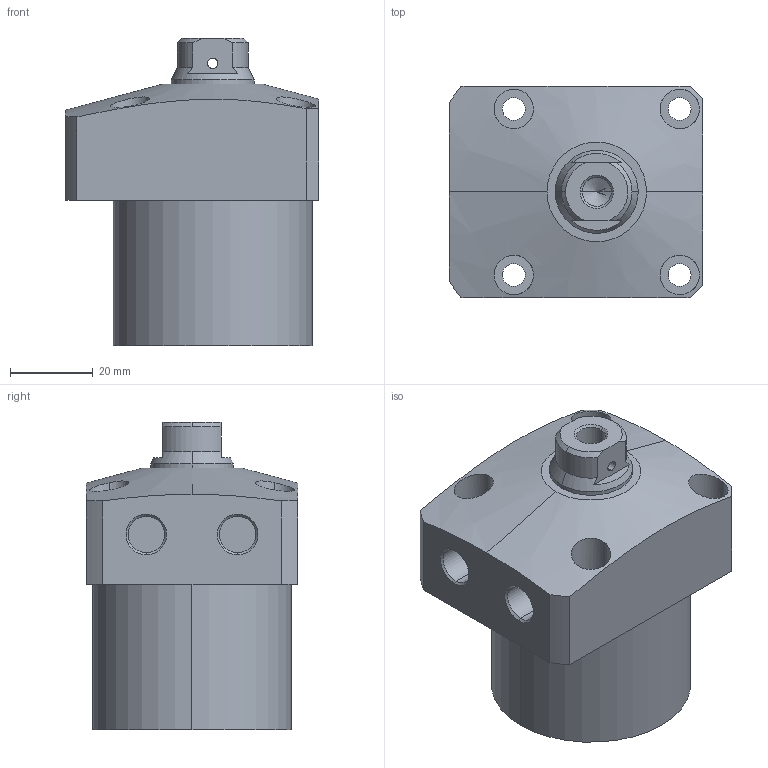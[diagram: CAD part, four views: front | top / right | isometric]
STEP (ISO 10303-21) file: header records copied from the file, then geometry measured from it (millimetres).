
FILE_DESCRIPTION (( 'STEP AP203' ), '1' );
FILE_NAME ('CLL-0480-CB-25.STEP', '2017-05-09T03:06:17', ( '' ), ( '' ), 'SwSTEP 2.0', 'SolidWorks 2015', '' );
FILE_SCHEMA (( 'CONFIG_CONTROL_DESIGN' ));
Length unit declared in the file: millimetre
Products named in the file (1): CLL-0480-CB-25
Bounding box: 61 x 51 x 74 mm (x, y, z)
Volume: 137904.3 mm3; surface area: 19879.7 mm2
Topology: 1 solids, 1 shells, 76 faces, 181 edges, 116 vertices
Faces by surface type: cylinder 39, plane 22, cone 15
Entity records: 2695 total; most frequent: CARTESIAN_POINT 818, DIRECTION 386, ORIENTED_EDGE 358, EDGE_CURVE 179, AXIS2_PLACEMENT_3D 158, VERTEX_POINT 116, EDGE_LOOP 99, CIRCLE 81
